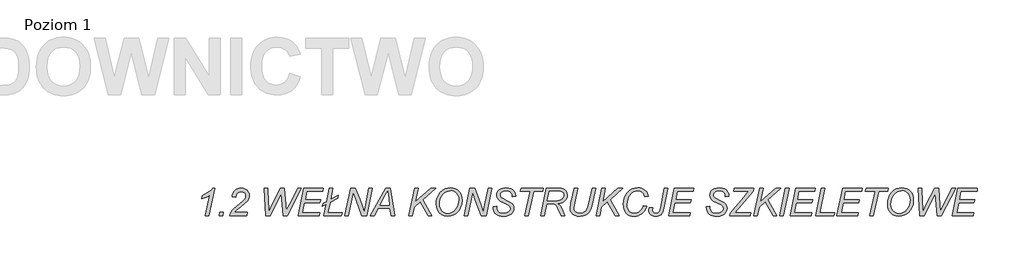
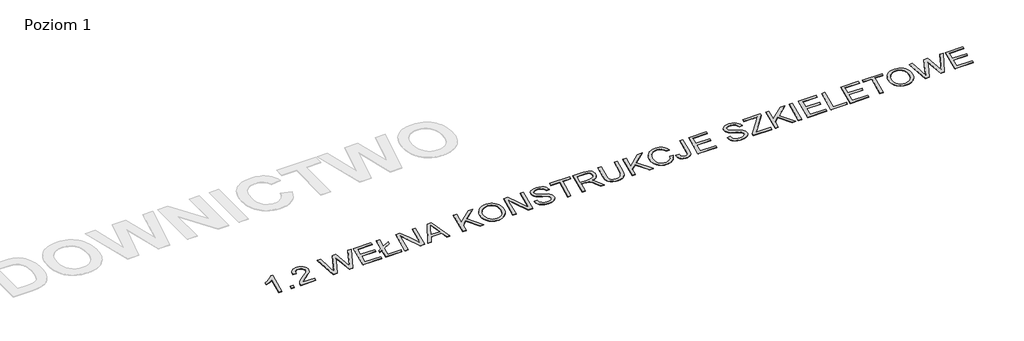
# One storey, part 1 of 2: 1 proxy.
"""IFC4 building model written with IfcOpenShell, lengths in millimetres."""

from ifc_helpers import new_model, si_unit, origin, origin_with_axes, place, context, project, spatial, polyline, outline, extrude, element, save

model = new_model("IFC4")

# Units and contexts
model_context = context("Model", 3, world=origin())
ifc_project = project(units=[si_unit("LENGTHUNIT", "METRE", prefix="MILLI")], contexts=[model_context])

# Site, building, storey
site = spatial("IfcSite", under=ifc_project)
building = spatial("IfcBuilding", under=site)
storey = spatial("IfcBuildingStorey", under=building, Name="Poziom 1", Elevation=0.0)

# Proxy
placement = place(None, origin())
element("IfcBuildingElementProxy", 1, Name="400 mm Arial", ObjectType="400 mm Arial", at=placement, inside=storey, context=model_context, shape_type="SweptSolid", body=[
    extrude(outline(polyline([(-5711.8931169, 15251.1796723), (-5650.6809957, 15546.3368692), (-5672.649213, 15531.4283702), (-5698.6703423, 15518.0740851), (-5762.8713366, 15496.0281571), (-5753.8808063, 15538.8766419), (-5718.1697504, 15555.5067319), (-5682.9608252, 15576.5125321), (-5630.0219048, 15617.0177404), (-5609.2671699, 15642.937248), (-5580.669632, 15642.937248), (-5662.0626245, 15251.1796723), (-5711.8931169, 15251.1796723)])), origin_with_axes(), (0.0, 0.0, 1.0), 5.0),
    extrude(outline(polyline([(-5515.2491775, 15251.1796723), (-5503.7719048, 15300.1493692), (-5454.8022078, 15300.1493692), (-5465.3230411, 15251.1796723), (-5515.2491775, 15251.1796723)])), origin_with_axes(), (0.0, 0.0, 1.0), 5.0),
    extrude(outline(polyline([(-5369.1052381, 15251.1796723), (-5359.9831974, 15283.4355908), (-5347.9201055, 15310.000695), (-5332.1627665, 15333.1106618), (-5311.9579843, 15355.0011685), (-5225.639329, 15423.625695), (-5172.5569427, 15465.9003162), (-5154.8867248, 15485.4355908), (-5142.8116775, 15504.6361116), (-5138.0773025, 15518.1219071), (-5136.4991775, 15532.7554298), (-5141.3889739, 15556.3675274), (-5156.0583631, 15576.1299563), (-5177.8532258, 15589.5081524), (-5204.1194427, 15593.967551), (-5230.4813034, 15589.4483749), (-5253.3282495, 15575.8908465), (-5271.3929985, 15552.3385264), (-5283.4082684, 15517.8349753), (-5332.3779654, 15524.3387632), (-5327.1324931, 15550.4256476), (-5318.4737277, 15573.5953919), (-5306.4016692, 15593.8479961), (-5290.9163177, 15611.1834601), (-5272.6692473, 15625.0757423), (-5252.3120326, 15634.998801), (-5229.8446735, 15640.9526363), (-5205.2671699, 15642.937248), (-5172.6406311, 15639.4103777), (-5143.2420752, 15628.8297669), (-5118.9126481, 15611.8768787), (-5101.4934957, 15589.233176), (-5091.0204843, 15563.325624), (-5087.5294805, 15536.5811874), (-5089.2988934, 15516.9682021), (-5094.607132, 15497.725837), (-5103.4541964, 15478.8540922), (-5115.8400866, 15460.3529677), (-5150.1284389, 15428.7904677), (-5218.1791017, 15376.5688768), (-5272.4570373, 15332.5726647), (-5299.2851623, 15300.1493692), (-5118.1355411, 15300.1493692), (-5127.795579, 15251.1796723), (-5369.1052381, 15251.1796723)])), origin_with_axes(), (0.0, 0.0, 1.0), 5.0),
    extrude(outline(polyline([(-4854.9234199, 15251.1796723), (-4879.4082684, 15642.937248), (-4830.4385714, 15642.937248), (-4819.2482305, 15447.8236116), (-4814.9442533, 15372.9344071), (-4813.6052381, 15348.9277783), (-4809.014329, 15318.5130056), (-4763.5834578, 15418.0783465), (-4648.8107305, 15642.937248), (-4591.7112987, 15642.937248), (-4574.3997457, 15413.2961495), (-4564.1658442, 15318.5130056), (-4548.671526, 15356.1010738), (-4518.0654654, 15417.1219071), (-4404.4404654, 15642.937248), (-4349.9234199, 15642.937248), (-4553.8362987, 15251.1796723), (-4610.0749351, 15251.1796723), (-4628.6298593, 15487.5158465), (-4637.6203896, 15563.3614904), (-4663.5398972, 15506.3577026), (-4793.9982305, 15251.1796723), (-4854.9234199, 15251.1796723)])), origin_with_axes(), (0.0, 0.0, 1.0), 5.0),
    extrude(outline(polyline([(-4395.8325108, 15251.1796723), (-4316.2567533, 15642.937248), (-4040.8022078, 15642.937248), (-4047.0190639, 15600.0887632), (-4275.2255033, 15600.0887632), (-4300.0929275, 15477.6645207), (-4077.5294805, 15477.6645207), (-4089.7719048, 15434.8160359), (-4308.796526, 15434.8160359), (-4337.3940639, 15294.0281571), (-4091.8760714, 15294.0281571), (-4101.0578896, 15251.1796723), (-4395.8325108, 15251.1796723)])), origin_with_axes(), (0.0, 0.0, 1.0), 5.0),
    extrude(outline(polyline([(-4001.6838366, 15413.7743692), (-4053.044632, 15385.8463389), (-4040.8022078, 15428.6948238), (-3993.3628139, 15454.5186874), (-3955.1052381, 15642.937248), (-3905.3703896, 15642.937248), (-3937.5067533, 15484.7421723), (-3826.5597836, 15544.9978541), (-3838.8022078, 15502.1493692), (-3945.732132, 15444.093498), (-3976.2425487, 15294.0281571), (-3771.4688745, 15294.0281571), (-3783.7112987, 15251.1796723), (-4034.6809957, 15251.1796723), (-4001.6838366, 15413.7743692)])), origin_with_axes(), (0.0, 0.0, 1.0), 5.0),
    extrude(outline(polyline([(-3734.7416017, 15251.1796723), (-3655.1658442, 15642.937248), (-3587.8325108, 15642.937248), (-3528.5332684, 15491.3416041), (-3485.4934957, 15374.5603541), (-3464.3561851, 15300.1493692), (-3442.7406548, 15411.2876268), (-3397.6923593, 15642.937248), (-3348.0531548, 15642.937248), (-3424.1857305, 15251.1796723), (-3496.4925487, 15251.1796723), (-3577.5029654, 15476.2298616), (-3617.0039123, 15585.7421723), (-3636.6109199, 15489.0461495), (-3685.0067533, 15251.1796723), (-3734.7416017, 15251.1796723)])), origin_with_axes(), (0.0, 0.0, 1.0), 5.0),
    extrude(outline(polyline([(-3375.7898972, 15251.1796723), (-3156.5739881, 15642.937248), (-3094.5967154, 15642.937248), (-3032.9063745, 15251.1796723), (-3082.3542911, 15251.1796723), (-3098.0398972, 15361.3614904), (-3261.1128139, 15361.3614904), (-3320.890276, 15251.1796723), (-3375.7898972, 15251.1796723)]), holes=[polyline([(-3235.7671699, 15404.2099753), (-3104.0654654, 15404.2099753), (-3117.8381927, 15502.1493692), (-3131.8022078, 15600.0887632), (-3174.9376245, 15520.5130056), (-3235.7671699, 15404.2099753)])]), origin_with_axes(), (0.0, 0.0, 1.0), 5.0),
    extrude(outline(polyline([(-2828.8022078, 15251.1796723), (-2749.609026, 15642.937248), (-2699.8741775, 15642.937248), (-2738.3230411, 15452.5101647), (-2521.2112987, 15642.937248), (-2449.2870563, 15642.937248), (-2632.1582684, 15481.0120586), (-2502.5607305, 15251.1796723), (-2557.9385714, 15251.1796723), (-2669.7463366, 15449.6408465), (-2753.8173593, 15375.8993692), (-2778.9717154, 15251.1796723), (-2828.8022078, 15251.1796723)])), origin_with_axes(), (0.0, 0.0, 1.0), 5.0),
    extrude(outline(polyline([(-2443.1658442, 15415.3046723), (-2439.4387194, 15465.0783761), (-2428.2573451, 15509.8606618), (-2409.6217213, 15549.6515295), (-2383.531848, 15584.4509791), (-2352.1277582, 15612.716752), (-2317.5494853, 15632.9065899), (-2279.7970291, 15645.0204926), (-2238.8703896, 15649.0584601), (-2204.4804157, 15646.0845314), (-2173.4260241, 15637.1627452), (-2145.7072149, 15622.2931015), (-2121.3239881, 15601.4756003), (-2101.447982, 15575.6607033), (-2087.2508347, 15545.7988721), (-2078.7325463, 15511.8901067), (-2075.8931169, 15473.9344071), (-2081.6078423, 15418.9869639), (-2098.7520184, 15368.1522101), (-2118.1079606, 15334.1866562), (-2141.935257, 15305.170676), (-2168.9188034, 15281.6781334), (-2197.7434957, 15264.2828919), (-2238.4399919, 15249.8645681), (-2281.5275866, 15245.0584601), (-2325.7629086, 15250.6536306), (-2365.8855411, 15267.4391419), (-2399.3370089, 15294.2553115), (-2423.5588366, 15329.9424563), (-2438.2640923, 15371.3443266), (-2443.1658442, 15415.3046723)]), holes=[polyline([(-2394.1961472, 15412.7222859), (-2390.621455, 15379.6175274), (-2379.8973783, 15349.358176), (-2362.0836945, 15323.6538673), (-2337.2401813, 15304.2142366), (-2308.1524682, 15291.9837679), (-2277.6061851, 15287.906945), (-2248.1119853, 15291.4816372), (-2220.0763555, 15302.2057139), (-2194.2166254, 15319.3140236), (-2171.2501245, 15342.0414147), (-2152.0017817, 15370.5074421), (-2137.296526, 15404.8316609), (-2127.9712419, 15441.809999), (-2124.8628139, 15478.2383844), (-2126.9101919, 15505.9781157), (-2133.0523262, 15530.7588626), (-2143.2892166, 15552.5806251), (-2157.6208631, 15571.4434033), (-2174.959316, 15586.6537785), (-2194.2166254, 15597.5183323), (-2215.3927914, 15604.0370645), (-2238.4878139, 15606.2099753), (-2268.3765449, 15602.9281926), (-2296.4480411, 15593.0828446), (-2322.7023025, 15576.6739312), (-2347.139329, 15553.7014526), (-2367.726687, 15525.1995586), (-2382.4319427, 15492.2023995), (-2391.2550961, 15454.7099753), (-2394.1961472, 15412.7222859)])]), origin_with_axes(), (0.0, 0.0, 1.0), 5.0),
    extrude(outline(polyline([(-2045.2870563, 15251.1796723), (-1965.7112987, 15642.937248), (-1898.3779654, 15642.937248), (-1839.078723, 15491.3416041), (-1796.0389502, 15374.5603541), (-1774.9016396, 15300.1493692), (-1753.2861093, 15411.2876268), (-1708.2378139, 15642.937248), (-1658.5986093, 15642.937248), (-1734.7311851, 15251.1796723), (-1807.0380033, 15251.1796723), (-1888.0484199, 15476.2298616), (-1927.5493669, 15585.7421723), (-1947.1563745, 15489.0461495), (-1995.5522078, 15251.1796723), (-2045.2870563, 15251.1796723)])), origin_with_axes(), (0.0, 0.0, 1.0), 5.0),
    extrude(outline(polyline([(-1635.1658442, 15379.7251268), (-1586.1961472, 15385.8463389), (-1586.7700108, 15371.6910359), (-1584.1876245, 15349.2386211), (-1576.4404654, 15328.7469071), (-1562.7394711, 15311.4473096), (-1542.295579, 15298.5712442), (-1516.2565165, 15290.5730198), (-1485.7700108, 15287.906945), (-1444.7268053, 15293.0717177), (-1428.3567473, 15299.5276836), (-1414.7543858, 15308.5660359), (-1396.4266159, 15330.6836969), (-1390.3173593, 15355.718498), (-1393.5214313, 15373.3887158), (-1403.1336472, 15389.4808086), (-1427.4272078, 15407.0792935), (-1474.2927381, 15430.0338389), (-1535.8874351, 15460.6398995), (-1558.3159389, 15478.7166041), (-1573.953723, 15498.3236116), (-1583.1355411, 15520.1543408), (-1586.1961472, 15544.9022101), (-1582.2149682, 15573.499748), (-1570.2714313, 15599.2279677), (-1550.6644237, 15620.6402546), (-1523.6928328, 15636.2899942), (-1491.066294, 15645.8663437), (-1454.4944427, 15649.0584601), (-1412.1002665, 15644.9577262), (-1376.9272078, 15632.6555245), (-1349.6925961, 15613.5147812), (-1331.1137608, 15588.8984223), (-1320.4255506, 15562.1659412), (-1316.8628139, 15536.6768313), (-1316.8628139, 15528.4514526), (-1365.8325108, 15524.3387632), (-1368.6061851, 15551.405998), (-1375.1697504, 15567.1752925), (-1384.530901, 15580.2426457), (-1397.2993669, 15590.811301), (-1414.0848783, 15599.0845018), (-1433.9907731, 15604.4286069), (-1456.1203896, 15606.2099753), (-1492.5129086, 15601.3799563), (-1507.3018527, 15595.3424327), (-1519.8192533, 15586.8898995), (-1532.874651, 15569.7457234), (-1537.2264502, 15547.7715283), (-1535.4211709, 15534.094445), (-1530.0053328, 15521.9476647), (-1519.8790307, 15510.6616798), (-1503.9423593, 15499.5669829), (-1440.3391396, 15468.8652783), (-1384.1005033, 15439.5982329), (-1365.9042438, 15423.9604488), (-1352.4423593, 15405.3577026), (-1344.1213366, 15383.8856382), (-1341.3476623, 15359.6398995), (-1346.0581264, 15329.1892603), (-1360.1895184, 15301.1536306), (-1382.6299777, 15277.3741562), (-1412.2676434, 15259.6919829), (-1447.9069663, 15248.7168408), (-1488.3523972, 15245.0584601), (-1519.236423, 15246.8876505), (-1547.1375534, 15252.3752215), (-1572.0557885, 15261.5211732), (-1593.9911283, 15274.3255056), (-1611.897467, 15291.888124), (-1624.7286993, 15315.3089336), (-1632.484825, 15344.5879346), (-1635.1658442, 15379.7251268)])), origin_with_axes(), (0.0, 0.0, 1.0), 5.0),
    extrude(outline(polyline([(-1188.3173593, 15251.1796723), (-1114.1933063, 15600.0887632), (-1249.5294805, 15600.0887632), (-1240.2520184, 15642.937248), (-928.1658442, 15642.937248), (-937.4433063, 15600.0887632), (-1064.3628139, 15600.0887632), (-1138.4868669, 15251.1796723), (-1188.3173593, 15251.1796723)])), origin_with_axes(), (0.0, 0.0, 1.0), 5.0),
    extrude(outline(polyline([(-961.8325108, 15251.1796723), (-882.2567533, 15642.937248), (-716.7927381, 15642.937248), (-673.7410099, 15640.8569923), (-642.5252192, 15634.6162253), (-619.9532495, 15622.6368219), (-602.8329843, 15603.3406571), (-592.0371747, 15577.3972385), (-588.4385714, 15545.4760738), (-590.3753612, 15522.0791751), (-596.1857305, 15500.7625321), (-605.8696794, 15481.5261448), (-619.4272078, 15464.3700132), (-637.3066467, 15449.6707352), (-659.9563271, 15437.804909), (-687.376249, 15428.7725345), (-719.5664123, 15422.5736116), (-700.8441112, 15408.2509317), (-687.3344048, 15394.1673616), (-668.1817059, 15358.946481), (-653.1895184, 15322.530051), (-619.140276, 15251.1796723), (-672.6052381, 15251.1796723), (-706.8457684, 15322.9126268), (-721.9814218, 15359.3051457), (-739.077776, 15390.437248), (-752.6711709, 15406.8282281), (-766.8623404, 15416.4045776), (-785.8596178, 15421.0313531), (-813.8713366, 15422.5736116), (-877.2832684, 15422.5736116), (-912.0976623, 15251.1796723), (-961.8325108, 15251.1796723)]), holes=[polyline([(-868.5796699, 15465.4220965), (-793.4991775, 15465.4220965), (-725.6876245, 15465.4220965), (-698.7279891, 15470.3955813), (-677.1483252, 15479.1948238), (-660.3747694, 15491.7600463), (-647.8334578, 15508.0314715), (-640.0145658, 15526.8374611), (-637.4082684, 15547.0063768), (-639.3928802, 15563.4690899), (-645.3467154, 15577.6602594), (-654.5285336, 15588.6234459), (-666.1970942, 15595.4022101), (-683.6282021, 15598.9171249), (-710.0976623, 15600.0887632), (-841.2255033, 15600.0887632), (-868.5796699, 15465.4220965)])]), origin_with_axes(), (0.0, 0.0, 1.0), 5.0),
    extrude(outline(polyline([(-490.1166017, 15642.937248), (-440.4773972, 15642.937248), (-490.0209578, 15401.7232329), (-496.046526, 15357.248801), (-494.4713899, 15342.3761685), (-489.7459815, 15329.0338389), (-481.8703008, 15317.2218124), (-470.844348, 15306.9400889), (-442.4022315, 15292.665231), (-407.4802381, 15287.906945), (-378.2131927, 15291.3262158), (-351.0503139, 15301.5840283), (-327.6653707, 15318.4771391), (-309.732132, 15341.8023048), (-295.2898972, 15376.2460785), (-282.3779654, 15426.4950132), (-233.0256927, 15642.937248), (-183.0039123, 15642.937248), (-235.4167911, 15412.8179298), (-249.2373404, 15360.4648285), (-266.7880033, 15320.2824185), (-289.9577476, 15289.5687584), (-320.6355411, 15265.6219071), (-357.8649445, 15250.1993219), (-400.6895184, 15245.0584601), (-443.0597836, 15248.6929298), (-479.3088366, 15259.5963389), (-508.3367722, 15276.8959365), (-529.0436851, 15299.7189715), (-541.4534862, 15327.0372717), (-545.5900866, 15357.8226647), (-534.6866775, 15428.7904677), (-490.1166017, 15642.937248)])), origin_with_axes(), (0.0, 0.0, 1.0), 5.0),
    extrude(outline(polyline([(-178.3173593, 15251.1796723), (-99.1241775, 15642.937248), (-49.389329, 15642.937248), (-87.8381927, 15452.5101647), (129.2735498, 15642.937248), (201.1977922, 15642.937248), (18.3265801, 15481.0120586), (147.924118, 15251.1796723), (92.546277, 15251.1796723), (-19.2614881, 15449.6408465), (-103.3325108, 15375.8993692), (-128.4868669, 15251.1796723), (-178.3173593, 15251.1796723)])), origin_with_axes(), (0.0, 0.0, 1.0), 5.0),
    extrude(outline(polyline([(488.8947619, 15391.967551), (537.8644589, 15385.8463389), (524.2292198, 15353.198878), (507.8083509, 15324.7896391), (488.6018523, 15300.6186223), (466.609724, 15280.6858276), (442.5074513, 15265.0988543), (416.9705195, 15253.965302), (389.9989286, 15247.2851706), (361.5926786, 15245.0584601), (327.9021009, 15247.7723569), (297.8938149, 15255.9140473), (271.5678206, 15269.4835312), (248.924118, 15288.4808086), (230.7218807, 15312.5412371), (217.7202827, 15341.3001741), (209.9193239, 15374.7576197), (207.3190043, 15412.9135738), (211.2822501, 15463.4195515), (223.1719873, 15509.3465757), (242.988216, 15550.6946462), (270.7309361, 15587.4637632), (300.6615114, 15614.4114431), (334.023313, 15633.6597859), (370.816341, 15645.2087916), (411.0405952, 15649.0584601), (440.6035391, 15646.9841822), (467.2194541, 15640.7613484), (490.8883403, 15630.3899587), (511.6101975, 15615.8700132), (528.8350732, 15597.8471083), (542.0130147, 15576.9668408), (551.1440221, 15553.2292106), (556.2280952, 15526.6342177), (507.2583983, 15520.5130056), (495.6376596, 15558.1847622), (486.6351738, 15572.9228955), (475.5046104, 15584.9291988), (462.4253017, 15594.2395385), (447.5765801, 15600.8897812), (412.5708983, 15606.2099753), (378.0972359, 15602.2228186), (347.0787108, 15590.2613484), (319.515323, 15570.3255648), (295.4070725, 15542.4154677), (278.2927851, 15513.6326197), (266.0682941, 15482.2793408), (258.7335995, 15448.3556311), (256.2887013, 15411.8614904), (258.1776691, 15383.4701848), (263.8445725, 15358.6475937), (273.2894115, 15337.393717), (286.5121861, 15319.7085548), (302.7656781, 15305.7953505), (321.3026691, 15295.8573474), (342.1231591, 15289.8945456), (365.2271483, 15287.906945), (385.4408971, 15289.6046249), (404.6683178, 15294.6976647), (422.9094103, 15303.1860643), (440.1641748, 15315.0698238), (455.7810368, 15330.0620113), (469.1084219, 15347.875695), (480.1463303, 15368.5108749), (488.8947619, 15391.967551)])), origin_with_axes(), (0.0, 0.0, 1.0), 5.0),
    extrude(outline(polyline([(572.4875649, 15367.4827026), (621.7441937, 15367.4827026), (617.4402164, 15334.6768313), (620.8116653, 15315.5002215), (630.9260119, 15300.6275889), (647.0659267, 15291.087106), (668.5140801, 15287.906945), (684.8691937, 15289.8676457), (699.1201407, 15295.749748), (711.0995441, 15305.7206287), (720.640027, 15319.9476647), (733.7432467, 15364.8046723), (788.8341558, 15642.937248), (838.1864286, 15642.937248), (781.8521483, 15356.4836495), (774.5921755, 15328.6393077), (765.2459693, 15305.0750321), (753.8135297, 15285.7908228), (740.2948566, 15270.7866798), (724.7258166, 15259.5305837), (707.1422761, 15251.4905151), (687.5442351, 15246.6664739), (665.9316937, 15245.0584601), (643.3029354, 15246.4811637), (623.621206, 15250.7492745), (606.8865055, 15257.8627925), (593.0988339, 15267.8217177), (582.3239463, 15280.3510738), (574.6275981, 15295.1758844), (570.0097891, 15312.2961495), (568.4705195, 15331.7118692), (572.4875649, 15367.4827026)])), origin_with_axes(), (0.0, 0.0, 1.0), 5.0),
    extrude(outline(polyline([(850.046277, 15251.1796723), (929.6220346, 15642.937248), (1205.0765801, 15642.937248), (1198.859724, 15600.0887632), (970.6532846, 15600.0887632), (945.7858604, 15477.6645207), (1168.3493073, 15477.6645207), (1156.1068831, 15434.8160359), (937.0822619, 15434.8160359), (908.484724, 15294.0281571), (1154.0027164, 15294.0281571), (1144.8208983, 15251.1796723), (850.046277, 15251.1796723)])), origin_with_axes(), (0.0, 0.0, 1.0), 5.0),
    extrude(outline(polyline([(1382.5917316, 15379.7251268), (1431.5614286, 15385.8463389), (1430.9875649, 15371.6910359), (1433.5699513, 15349.2386211), (1441.3171104, 15328.7469071), (1455.0181047, 15311.4473096), (1475.4619967, 15298.5712442), (1501.5010592, 15290.5730198), (1531.9875649, 15287.906945), (1573.0307704, 15293.0717177), (1589.4008284, 15299.5276836), (1603.0031899, 15308.5660359), (1621.3309598, 15330.6836969), (1627.4402164, 15355.718498), (1624.2361445, 15373.3887158), (1614.6239286, 15389.4808086), (1590.330368, 15407.0792935), (1543.4648377, 15430.0338389), (1481.8701407, 15460.6398995), (1459.4416369, 15478.7166041), (1443.8038528, 15498.3236116), (1434.6220346, 15520.1543408), (1431.5614286, 15544.9022101), (1435.5426075, 15573.499748), (1447.4861445, 15599.2279677), (1467.093152, 15620.6402546), (1494.064743, 15636.2899942), (1526.6912818, 15645.8663437), (1563.2631331, 15649.0584601), (1605.6573092, 15644.9577262), (1640.830368, 15632.6555245), (1668.0649797, 15613.5147812), (1686.6438149, 15588.8984223), (1697.3320252, 15562.1659412), (1700.8947619, 15536.6768313), (1700.8947619, 15528.4514526), (1651.9250649, 15524.3387632), (1649.1513907, 15551.405998), (1642.5878253, 15567.1752925), (1633.2266748, 15580.2426457), (1620.4582089, 15590.811301), (1603.6726975, 15599.0845018), (1583.7668026, 15604.4286069), (1561.6371861, 15606.2099753), (1525.2446672, 15601.3799563), (1510.4557231, 15595.3424327), (1497.9383225, 15586.8898995), (1484.8829248, 15569.7457234), (1480.5311255, 15547.7715283), (1482.3364049, 15534.094445), (1487.752243, 15521.9476647), (1497.878545, 15510.6616798), (1513.8152164, 15499.5669829), (1577.4184361, 15468.8652783), (1633.6570725, 15439.5982329), (1651.853332, 15423.9604488), (1665.3152164, 15405.3577026), (1673.6362392, 15383.8856382), (1676.4099134, 15359.6398995), (1671.6994494, 15329.1892603), (1657.5680573, 15301.1536306), (1635.1275981, 15277.3741562), (1605.4899323, 15259.6919829), (1569.8506094, 15248.7168408), (1529.4051786, 15245.0584601), (1498.5211528, 15246.8876505), (1470.6200223, 15252.3752215), (1445.7017872, 15261.5211732), (1423.7664475, 15274.3255056), (1405.8601087, 15291.888124), (1393.0288765, 15315.3089336), (1385.2727508, 15344.5879346), (1382.5917316, 15379.7251268)])), origin_with_axes(), (0.0, 0.0, 1.0), 5.0),
    extrude(outline(polyline([(1713.1371861, 15251.1796723), (1719.2583983, 15287.906945), (1916.0936255, 15522.2345965), (1957.0292316, 15570.7260738), (1981.609724, 15600.0887632), (1946.5083983, 15600.0887632), (1933.5008225, 15600.0887632), (1917.8152164, 15600.0887632), (1902.4165422, 15600.0887632), (1769.1845346, 15600.0887632), (1778.4619967, 15642.937248), (2049.8038528, 15642.937248), (2044.734724, 15601.905998), (1834.2224134, 15351.4145207), (1786.017868, 15294.0281571), (1800.9383225, 15294.0281571), (2010.5898377, 15294.0281571), (2001.3123755, 15251.1796723), (1713.1371861, 15251.1796723)])), origin_with_axes(), (0.0, 0.0, 1.0), 5.0),
    extrude(outline(polyline([(2055.9250649, 15251.1796723), (2135.1182467, 15642.937248), (2184.8530952, 15642.937248), (2146.4042316, 15452.5101647), (2363.515974, 15642.937248), (2435.4402164, 15642.937248), (2252.5690043, 15481.0120586), (2382.1665422, 15251.1796723), (2326.7887013, 15251.1796723), (2214.9809361, 15449.6408465), (2130.9099134, 15375.8993692), (2105.7555573, 15251.1796723), (2055.9250649, 15251.1796723)])), origin_with_axes(), (0.0, 0.0, 1.0), 5.0),
    extrude(outline(polyline([(2423.1977922, 15251.1796723), (2502.7735498, 15642.937248), (2552.5083983, 15642.937248), (2472.9326407, 15251.1796723), (2423.1977922, 15251.1796723)])), origin_with_axes(), (0.0, 0.0, 1.0), 5.0),
    extrude(outline(polyline([(2570.1068831, 15251.1796723), (2649.6826407, 15642.937248), (2925.1371861, 15642.937248), (2918.9203301, 15600.0887632), (2690.7138907, 15600.0887632), (2665.8464664, 15477.6645207), (2888.4099134, 15477.6645207), (2876.1674892, 15434.8160359), (2657.142868, 15434.8160359), (2628.5453301, 15294.0281571), (2874.0633225, 15294.0281571), (2864.8815043, 15251.1796723), (2570.1068831, 15251.1796723)])), origin_with_axes(), (0.0, 0.0, 1.0), 5.0),
    extrude(outline(polyline([(2931.2583983, 15251.1796723), (3010.8341558, 15642.937248), (3060.5690043, 15642.937248), (2989.6968452, 15294.0281571), (3200.5917316, 15294.0281571), (3188.3493073, 15251.1796723), (2931.2583983, 15251.1796723)])), origin_with_axes(), (0.0, 0.0, 1.0), 5.0),
    extrude(outline(polyline([(3231.1977922, 15251.1796723), (3310.7735498, 15642.937248), (3586.2280952, 15642.937248), (3580.0112392, 15600.0887632), (3351.8047998, 15600.0887632), (3326.9373755, 15477.6645207), (3549.5008225, 15477.6645207), (3537.2583983, 15434.8160359), (3318.233777, 15434.8160359), (3289.6362392, 15294.0281571), (3535.1542316, 15294.0281571), (3525.9724134, 15251.1796723), (3231.1977922, 15251.1796723)])), origin_with_axes(), (0.0, 0.0, 1.0), 5.0),
    extrude(outline(polyline([(3696.4099134, 15251.1796723), (3770.5339664, 15600.0887632), (3635.1977922, 15600.0887632), (3644.4752543, 15642.937248), (3956.5614286, 15642.937248), (3947.2839664, 15600.0887632), (3820.3644589, 15600.0887632), (3746.2404058, 15251.1796723), (3696.4099134, 15251.1796723)])), origin_with_axes(), (0.0, 0.0, 1.0), 5.0),
    extrude(outline(polyline([(3947.3796104, 15415.3046723), (3951.1067351, 15465.0783761), (3962.2881094, 15509.8606618), (3980.9237332, 15549.6515295), (4007.0136066, 15584.4509791), (4038.4176963, 15612.716752), (4072.9959693, 15632.9065899), (4110.7484255, 15645.0204926), (4151.6750649, 15649.0584601), (4186.0650389, 15646.0845314), (4217.1194305, 15637.1627452), (4244.8382396, 15622.2931015), (4269.2214664, 15601.4756003), (4289.0974726, 15575.6607033), (4303.2946198, 15545.7988721), (4311.8129082, 15511.8901067), (4314.6523377, 15473.9344071), (4308.9376123, 15418.9869639), (4291.7934361, 15368.1522101), (4272.4374939, 15334.1866562), (4248.6101975, 15305.170676), (4221.6266511, 15281.6781334), (4192.8019589, 15264.2828919), (4152.1054627, 15249.8645681), (4109.017868, 15245.0584601), (4064.782546, 15250.6536306), (4024.6599134, 15267.4391419), (3991.2084456, 15294.2553115), (3966.986618, 15329.9424563), (3952.2813623, 15371.3443266), (3947.3796104, 15415.3046723)]), holes=[polyline([(3996.3493073, 15412.7222859), (3999.9239996, 15379.6175274), (4010.6480763, 15349.358176), (4028.46176, 15323.6538673), (4053.3052733, 15304.2142366), (4082.3929863, 15291.9837679), (4112.9392695, 15287.906945), (4142.4334693, 15291.4816372), (4170.469099, 15302.2057139), (4196.3288291, 15319.3140236), (4219.2953301, 15342.0414147), (4238.5436729, 15370.5074421), (4253.2489286, 15404.8316609), (4262.5742127, 15441.809999), (4265.6826407, 15478.2383844), (4263.6352626, 15505.9781157), (4257.4931284, 15530.7588626), (4247.256238, 15552.5806251), (4232.9245914, 15571.4434033), (4215.5861386, 15586.6537785), (4196.3288291, 15597.5183323), (4175.1526632, 15604.0370645), (4152.0576407, 15606.2099753), (4122.1689096, 15602.9281926), (4094.0974134, 15593.0828446), (4067.843152, 15576.6739312), (4043.4061255, 15553.7014526), (4022.8187676, 15525.1995586), (4008.1135119, 15492.2023995), (3999.2903585, 15454.7099753), (3996.3493073, 15412.7222859)])]), origin_with_axes(), (0.0, 0.0, 1.0), 5.0),
    extrude(outline(polyline([(4406.4705195, 15251.1796723), (4381.985671, 15642.937248), (4430.955368, 15642.937248), (4442.1457089, 15447.8236116), (4446.4496861, 15372.9344071), (4447.7887013, 15348.9277783), (4452.3796104, 15318.5130056), (4497.8104816, 15418.0783465), (4612.5832089, 15642.937248), (4669.6826407, 15642.937248), (4686.9941937, 15413.2961495), (4697.2280952, 15318.5130056), (4712.7224134, 15356.1010738), (4743.328474, 15417.1219071), (4856.953474, 15642.937248), (4911.4705195, 15642.937248), (4707.5576407, 15251.1796723), (4651.3190043, 15251.1796723), (4632.7640801, 15487.5158465), (4623.7735498, 15563.3614904), (4597.8540422, 15506.3577026), (4467.3957089, 15251.1796723), (4406.4705195, 15251.1796723)])), origin_with_axes(), (0.0, 0.0, 1.0), 5.0),
    extrude(outline(polyline([(4865.5614286, 15251.1796723), (4945.1371861, 15642.937248), (5220.5917316, 15642.937248), (5214.3748755, 15600.0887632), (4986.1684361, 15600.0887632), (4961.3010119, 15477.6645207), (5183.8644589, 15477.6645207), (5171.6220346, 15434.8160359), (4952.5974134, 15434.8160359), (4923.9998755, 15294.0281571), (5169.517868, 15294.0281571), (5160.3360498, 15251.1796723), (4865.5614286, 15251.1796723)])), origin_with_axes(), (0.0, 0.0, 1.0), 5.0),
])

save(model, "model.ifc")
